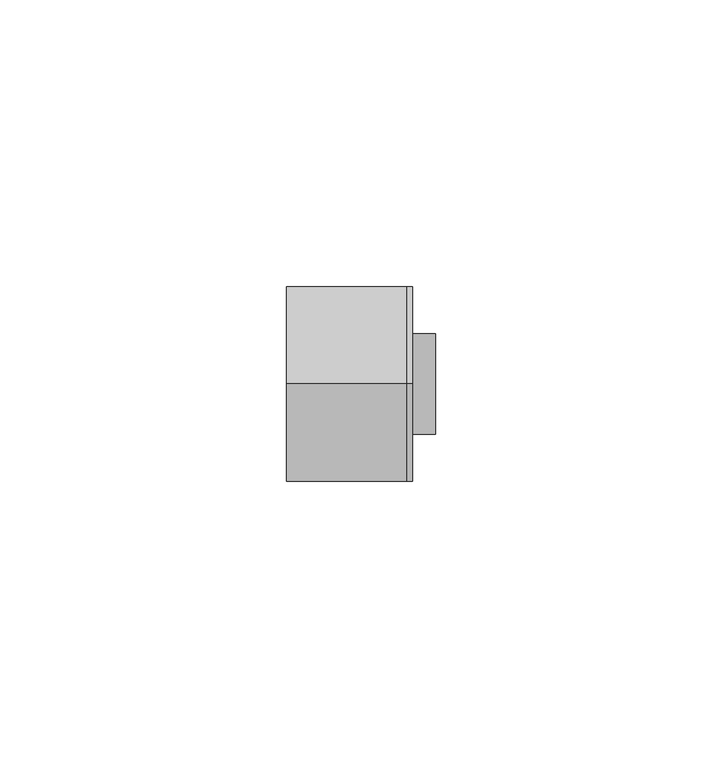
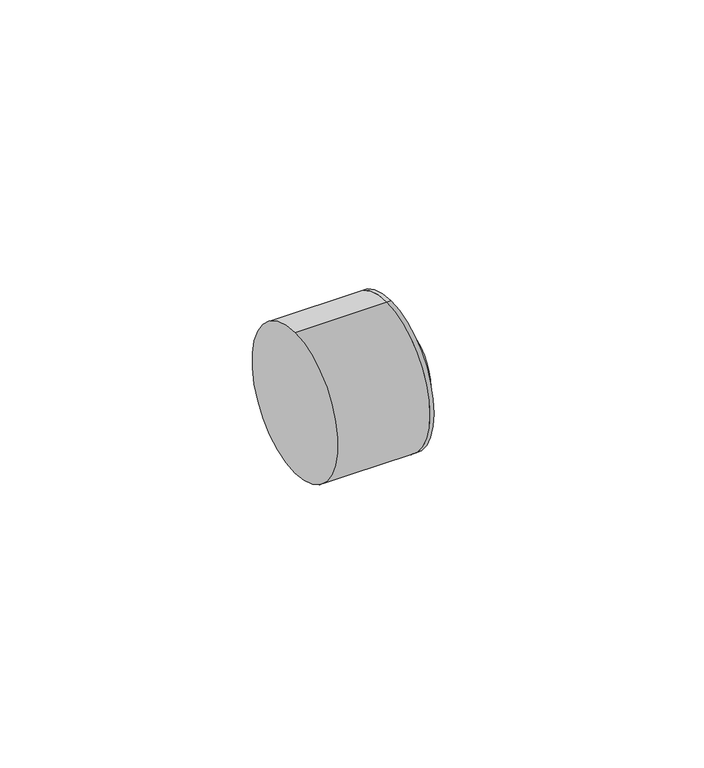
"""IFC4 building model written with IfcOpenShell, lengths in millimetres: pipe fitting geometry, AmancoWavin_Unionesdetubería_TigrisFlexZNoUsarConectorRosHembraManifold : Tigris K5."""

from ifc_helpers import new_model, si_unit, point, frame, origin, origin_2d, place, context, project, spatial, circle_curve, trimmed, segment, composite_curve, outline, extrude, source, transform, mapped, element, save


def pipe_fitting_5590baf3(model_context):
    return source(origin(), model_context, "Body", "SweptSolid", [
        extrude(outline(composite_curve([segment(trimmed(circle_curve(origin_2d(), 17.0), [point((0.0, -17.0))], [point((0.0, 17.0))], False, "CARTESIAN"), True, "CONTINUOUS"), segment(trimmed(circle_curve(origin_2d(), 17.0), [point((0.0, 17.0))], [point((0.0, -17.0))], False, "CARTESIAN"), True, "CONTINUOUS")], self_intersect=False)), frame((-23.5, 0.0, 0.0), z_axis=(1.0, 0.0, 0.0), x_axis=(0.0, 1.0, 0.0)), (0.0, 0.0, 1.0), 21.0),
        extrude(outline(composite_curve([segment(trimmed(circle_curve(origin_2d(), 17.0), [point((0.0, -17.0))], [point((0.0, 17.0))], False, "CARTESIAN"), True, "CONTINUOUS"), segment(trimmed(circle_curve(origin_2d(), 17.0), [point((0.0, 17.0))], [point((0.0, -17.0))], False, "CARTESIAN"), True, "CONTINUOUS")], self_intersect=False)), frame((-2.5, 0.0, 0.0), z_axis=(1.0, 0.0, 0.0), x_axis=(0.0, 1.0, 0.0)), (0.0, 0.0, 1.0), 1.0),
        extrude(outline(composite_curve([segment(trimmed(circle_curve(origin_2d(), 8.8), [point((-8.8, 0.0))], [point((8.8, 0.0))], False, "CARTESIAN"), True, "CONTINUOUS"), segment(trimmed(circle_curve(origin_2d(), 8.8), [point((8.8, 0.0))], [point((-8.8, 0.0))], False, "CARTESIAN"), True, "CONTINUOUS")], self_intersect=False)), frame((-2.5, 0.0, 0.0), z_axis=(1.0, 0.0, 0.0), x_axis=(0.0, 1.0, 0.0)), (0.0, 0.0, 1.0), 5.0),
    ])


if __name__ == "__main__":
    model = new_model("IFC4")
    model_context = context("Model", 3, world=origin())
    ifc_project = project(units=[si_unit("LENGTHUNIT", "METRE", prefix="MILLI")], contexts=[model_context])
    site = spatial("IfcSite", under=ifc_project)
    building = spatial("IfcBuilding", under=site)
    placement = place(None, origin())
    pipe_fitting_shape = pipe_fitting_5590baf3(model_context)
    element("IfcPipeFitting", 1, ObjectType="AmancoWavin_Unionesdetubería_TigrisFlexZNoUsarConectorRosHembraManifold : Tigris K5", at=placement, inside=building, context=model_context, shape_type="MappedRepresentation", body=[
        mapped(pipe_fitting_shape, transform((0.0, 0.0, 0.0), x_axis=(1.0, 0.0, 0.0), y_axis=(0.0, 1.0, 0.0), z_axis=(0.0, 0.0, 1.0))),
    ])
    save(model, "model.ifc")
